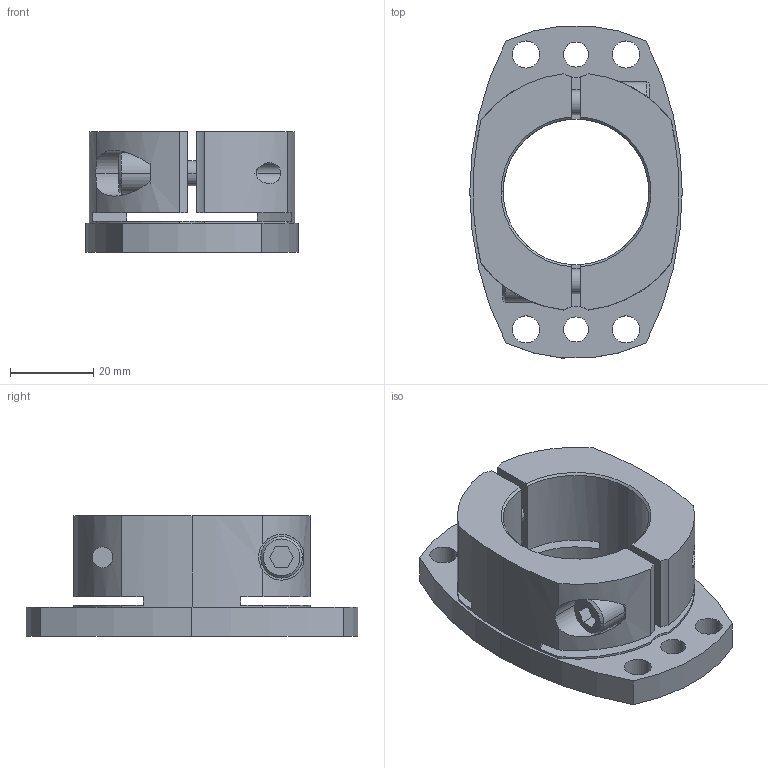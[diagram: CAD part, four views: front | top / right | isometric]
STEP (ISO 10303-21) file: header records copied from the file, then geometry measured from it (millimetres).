
FILE_DESCRIPTION((''),'2;1');
FILE_NAME('SHDB-80B-35.stp','2026-01-28T08:33:41',(''),(''),'AutoCAD STEP 2000i','AutoCAD 2000i',', , ');
FILE_SCHEMA(('CONFIG_CONTROL_DESIGN'));
Length unit declared in the file: millimetre
Products named in the file (2): SHDB-80B-35; 忣兜1
Assembly tree (1 placements, depth 2):
  SHDB-80B-35
    忣兜1
Bounding box: 51 x 79.7 x 29 mm (x, y, z)
Volume: 43416.2 mm3; surface area: 17461.4 mm2
Topology: 1 solids, 1 shells, 102 faces, 274 edges, 180 vertices
Faces by surface type: cylinder 58, plane 34, cone 10
Entity records: 3611 total; most frequent: CARTESIAN_POINT 812, DIRECTION 600, ORIENTED_EDGE 548, EDGE_CURVE 274, AXIS2_PLACEMENT_3D 238, VERTEX_POINT 180, CIRCLE 134, EDGE_LOOP 126
